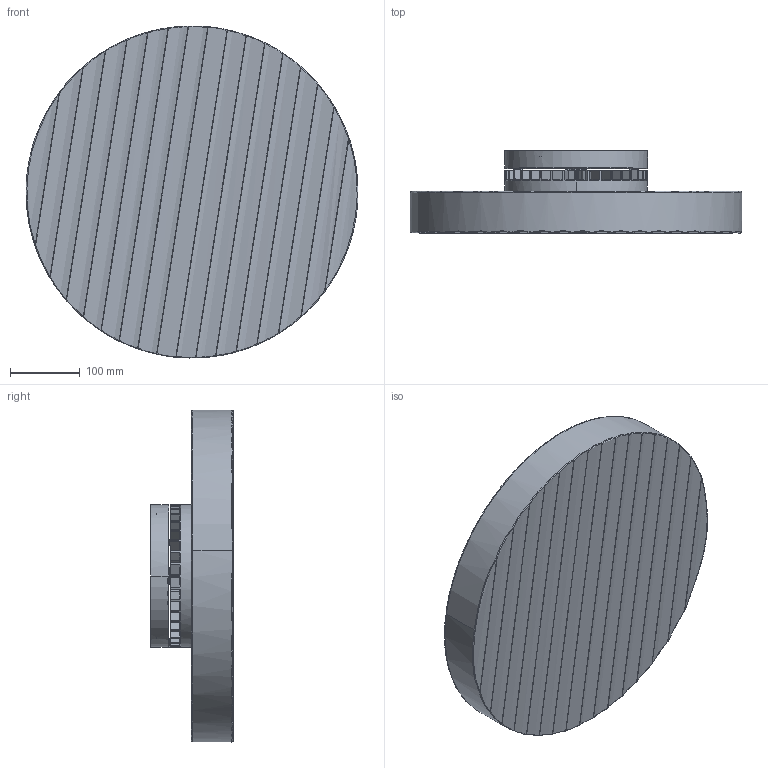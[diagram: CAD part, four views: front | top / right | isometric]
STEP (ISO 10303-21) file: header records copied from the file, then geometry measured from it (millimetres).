
FILE_DESCRIPTION(/* description */ (''),/* implementation_level */ '2;1');
FILE_NAME(/* name */ 'Cotê P060__.050',/* time_stamp */ '2025-05-26T16:34:47+02:00',/* author */ (''),/* organization */ (''),/* preprocessor_version */ 'ST-DEVELOPER v16.5',/* originating_system */ '',/* authorisation */ '');
FILE_SCHEMA (('AUTOMOTIVE_DESIGN'));
Length unit declared in the file: millimetre
Products named in the file (1): Document
Bounding box: 475.92 x 118.36 x 475.96 mm (x, y, z)
Volume: 1979885.5 mm3; surface area: 1062012.9 mm2
Topology: 3 solids, 3 shells, 1277 faces, 3040 edges, 1703 vertices
Faces by surface type: bspline 1054, plane 223
Entity records: 62059 total; most frequent: CARTESIAN_POINT 45506, ORIENTED_EDGE 5936, EDGE_CURVE 2968, VERTEX_POINT 1703, EDGE_LOOP 1329, B_SPLINE_CURVE_WITH_KNOTS 1309, ADVANCED_FACE 1277, FACE_OUTER_BOUND 1277
